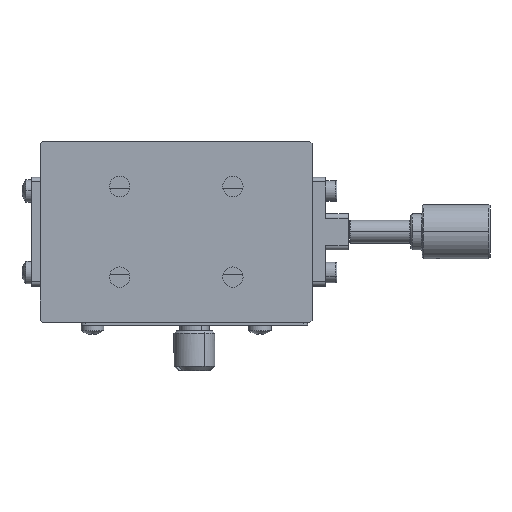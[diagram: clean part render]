
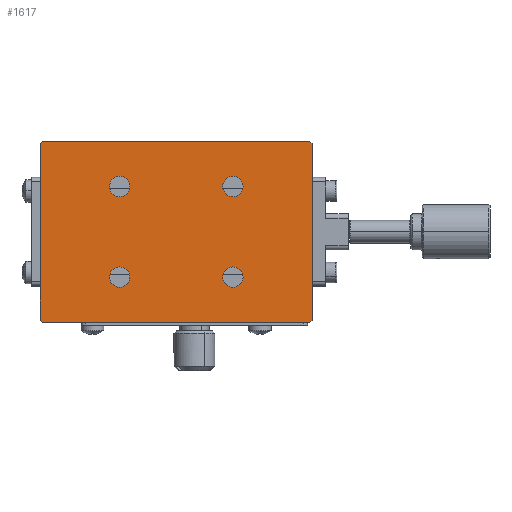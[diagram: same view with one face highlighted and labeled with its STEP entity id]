
A CAD part, front view. The second image highlights one B-rep face of the part: STEP entity #1617.
In plain terms, the highlighted planar face has unit normal (0, -1, 0).
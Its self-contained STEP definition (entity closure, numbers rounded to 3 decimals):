
#868 = VERTEX_POINT ( 'NONE', #29836 ) ;
#1165 = DIRECTION ( 'NONE',  ( 0., 1., 0. ) ) ;
#1332 = CIRCLE ( 'NONE', #17209, 2.25 ) ;
#1401 = VECTOR ( 'NONE', #17075, 1000. ) ;
#1617 = ADVANCED_FACE ( 'NONE', ( #29916, #8924, #9720, #38227, #4801 ), #47043, .T. ) ;
#1726 = EDGE_CURVE ( 'NONE', #10392, #22012, #35682, .T. ) ;
#2042 = DIRECTION ( 'NONE',  ( 0., 0., 1. ) ) ;
#2432 = ORIENTED_EDGE ( 'NONE', *, *, #47905, .T. ) ;
#2440 = CIRCLE ( 'NONE', #7736, 2.25 ) ;
#3204 = EDGE_CURVE ( 'NONE', #17726, #53371, #18297, .T. ) ;
#3485 = EDGE_CURVE ( 'NONE', #12780, #10485, #2440, .T. ) ;
#3561 = CARTESIAN_POINT ( 'NONE',  ( 0., 0., -40. ) ) ;
#3956 = VERTEX_POINT ( 'NONE', #47981 ) ;
#4408 = CARTESIAN_POINT ( 'NONE',  ( 0., 0., 0. ) ) ;
#4801 = FACE_OUTER_BOUND ( 'NONE', #23746, .T. ) ;
#5283 = EDGE_CURVE ( 'NONE', #10392, #31363, #18267, .T. ) ;
#6402 = CIRCLE ( 'NONE', #37312, 2.25 ) ;
#6777 = ORIENTED_EDGE ( 'NONE', *, *, #35390, .T. ) ;
#6780 = AXIS2_PLACEMENT_3D ( 'NONE', #13063, #50929, #46769 ) ;
#7736 = AXIS2_PLACEMENT_3D ( 'NONE', #19311, #48035, #10187 ) ;
#7813 = CARTESIAN_POINT ( 'NONE',  ( 42.5, 0., -30. ) ) ;
#7995 = LINE ( 'NONE', #4408, #19509 ) ;
#8660 = CARTESIAN_POINT ( 'NONE',  ( 42.5, 0., -10. ) ) ;
#8924 = FACE_BOUND ( 'NONE', #50811, .T. ) ;
#8939 = DIRECTION ( 'NONE',  ( 0., 1., 0. ) ) ;
#9029 = EDGE_CURVE ( 'NONE', #53371, #17726, #6402, .T. ) ;
#9287 = CARTESIAN_POINT ( 'NONE',  ( 60., 0., -39.5 ) ) ;
#9393 = ORIENTED_EDGE ( 'NONE', *, *, #47230, .T. ) ;
#9607 = AXIS2_PLACEMENT_3D ( 'NONE', #39879, #10588, #2042 ) ;
#9720 = FACE_BOUND ( 'NONE', #36396, .T. ) ;
#10028 = VERTEX_POINT ( 'NONE', #43348 ) ;
#10043 = CARTESIAN_POINT ( 'NONE',  ( 60., 0., -0.5 ) ) ;
#10187 = DIRECTION ( 'NONE',  ( 0., 0., 1. ) ) ;
#10223 = DIRECTION ( 'NONE',  ( -0.707, 0., 0.707 ) ) ;
#10276 = ORIENTED_EDGE ( 'NONE', *, *, #37611, .T. ) ;
#10383 = ORIENTED_EDGE ( 'NONE', *, *, #47943, .T. ) ;
#10392 = VERTEX_POINT ( 'NONE', #10043 ) ;
#10485 = VERTEX_POINT ( 'NONE', #32963 ) ;
#10588 = DIRECTION ( 'NONE',  ( 0., 1., 0. ) ) ;
#10923 = CARTESIAN_POINT ( 'NONE',  ( 42.5, 0., -10. ) ) ;
#11848 = LINE ( 'NONE', #3561, #30822 ) ;
#11865 = DIRECTION ( 'NONE',  ( 0., 0., 1. ) ) ;
#12081 = CARTESIAN_POINT ( 'NONE',  ( 0.5, 0., -40. ) ) ;
#12134 = ORIENTED_EDGE ( 'NONE', *, *, #5283, .T. ) ;
#12780 = VERTEX_POINT ( 'NONE', #19460 ) ;
#13063 = CARTESIAN_POINT ( 'NONE',  ( 0., 0., 0. ) ) ;
#13747 = ORIENTED_EDGE ( 'NONE', *, *, #1726, .F. ) ;
#14486 = ORIENTED_EDGE ( 'NONE', *, *, #50390, .T. ) ;
#14627 = CARTESIAN_POINT ( 'NONE',  ( 17.5, 0., -32.25 ) ) ;
#14949 = CARTESIAN_POINT ( 'NONE',  ( 17.5, 0., -30. ) ) ;
#15090 = VECTOR ( 'NONE', #10223, 1000. ) ;
#15302 = ORIENTED_EDGE ( 'NONE', *, *, #52310, .T. ) ;
#15423 = AXIS2_PLACEMENT_3D ( 'NONE', #8660, #8939, #51477 ) ;
#15513 = DIRECTION ( 'NONE',  ( 1., 0., 0. ) ) ;
#15577 = AXIS2_PLACEMENT_3D ( 'NONE', #21251, #20977, #11865 ) ;
#16338 = DIRECTION ( 'NONE',  ( 0., 0., 1. ) ) ;
#16653 = DIRECTION ( 'NONE',  ( 0.707, 0., -0.707 ) ) ;
#17075 = DIRECTION ( 'NONE',  ( 0.707, 0., 0.707 ) ) ;
#17205 = CARTESIAN_POINT ( 'NONE',  ( -19.75, 0., -19.75 ) ) ;
#17209 = AXIS2_PLACEMENT_3D ( 'NONE', #7813, #37648, #54500 ) ;
#17324 = DIRECTION ( 'NONE',  ( -0.707, 0., -0.707 ) ) ;
#17726 = VERTEX_POINT ( 'NONE', #25753 ) ;
#18267 = LINE ( 'NONE', #31206, #15090 ) ;
#18297 = CIRCLE ( 'NONE', #50064, 2.25 ) ;
#18451 = CIRCLE ( 'NONE', #9607, 2.25 ) ;
#19117 = DIRECTION ( 'NONE',  ( 0., 0., -1. ) ) ;
#19311 = CARTESIAN_POINT ( 'NONE',  ( 42.5, 0., -30. ) ) ;
#19460 = CARTESIAN_POINT ( 'NONE',  ( 42.5, 0., -32.25 ) ) ;
#19509 = VECTOR ( 'NONE', #21263, 1000. ) ;
#19781 = EDGE_CURVE ( 'NONE', #3956, #34354, #21473, .T. ) ;
#20977 = DIRECTION ( 'NONE',  ( 0., 1., 0. ) ) ;
#21251 = CARTESIAN_POINT ( 'NONE',  ( 17.5, 0., -10. ) ) ;
#21263 = DIRECTION ( 'NONE',  ( 0., 0., 1. ) ) ;
#21473 = LINE ( 'NONE', #46058, #50699 ) ;
#21619 = EDGE_CURVE ( 'NONE', #868, #34354, #7995, .T. ) ;
#22012 = VERTEX_POINT ( 'NONE', #9287 ) ;
#23746 = EDGE_LOOP ( 'NONE', ( #35825, #29807, #32592, #10383, #38196, #15302, #13747, #12134 ) ) ;
#24102 = CARTESIAN_POINT ( 'NONE',  ( 17.5, 0., -30. ) ) ;
#24152 = CARTESIAN_POINT ( 'NONE',  ( 17.5, 0., -12.25 ) ) ;
#24769 = EDGE_CURVE ( 'NONE', #3956, #31363, #53367, .T. ) ;
#25753 = CARTESIAN_POINT ( 'NONE',  ( 17.5, 0., -27.75 ) ) ;
#29807 = ORIENTED_EDGE ( 'NONE', *, *, #19781, .T. ) ;
#29836 = CARTESIAN_POINT ( 'NONE',  ( 0., 0., -39.5 ) ) ;
#29916 = FACE_BOUND ( 'NONE', #45432, .T. ) ;
#30603 = CARTESIAN_POINT ( 'NONE',  ( 42.5, 0., -7.75 ) ) ;
#30822 = VECTOR ( 'NONE', #41685, 1000. ) ;
#31206 = CARTESIAN_POINT ( 'NONE',  ( 29.75, 0., 29.75 ) ) ;
#31363 = VERTEX_POINT ( 'NONE', #49335 ) ;
#31899 = DIRECTION ( 'NONE',  ( 0., 1., 0. ) ) ;
#32592 = ORIENTED_EDGE ( 'NONE', *, *, #21619, .F. ) ;
#32903 = DIRECTION ( 'NONE',  ( 0., 1., 0. ) ) ;
#32960 = VERTEX_POINT ( 'NONE', #51087 ) ;
#32963 = CARTESIAN_POINT ( 'NONE',  ( 42.5, 0., -27.75 ) ) ;
#33074 = VERTEX_POINT ( 'NONE', #48014 ) ;
#33928 = VERTEX_POINT ( 'NONE', #12081 ) ;
#34354 = VERTEX_POINT ( 'NONE', #40196 ) ;
#35390 = EDGE_CURVE ( 'NONE', #53769, #32960, #39667, .T. ) ;
#35525 = EDGE_CURVE ( 'NONE', #10028, #33928, #11848, .T. ) ;
#35682 = LINE ( 'NONE', #36235, #36793 ) ;
#35825 = ORIENTED_EDGE ( 'NONE', *, *, #24769, .F. ) ;
#36235 = CARTESIAN_POINT ( 'NONE',  ( 60., 0., 0. ) ) ;
#36396 = EDGE_LOOP ( 'NONE', ( #2432, #44392 ) ) ;
#36622 = DIRECTION ( 'NONE',  ( 0., 0., 1. ) ) ;
#36793 = VECTOR ( 'NONE', #19117, 1000. ) ;
#36824 = ORIENTED_EDGE ( 'NONE', *, *, #9029, .T. ) ;
#37312 = AXIS2_PLACEMENT_3D ( 'NONE', #14949, #1165, #44515 ) ;
#37611 = EDGE_CURVE ( 'NONE', #33074, #48976, #18451, .T. ) ;
#37648 = DIRECTION ( 'NONE',  ( 0., 1., 0. ) ) ;
#37929 = AXIS2_PLACEMENT_3D ( 'NONE', #10923, #31899, #36622 ) ;
#38196 = ORIENTED_EDGE ( 'NONE', *, *, #35525, .F. ) ;
#38227 = FACE_BOUND ( 'NONE', #54483, .T. ) ;
#38323 = CARTESIAN_POINT ( 'NONE',  ( 49.75, 0., -49.75 ) ) ;
#39043 = VECTOR ( 'NONE', #15513, 1000. ) ;
#39203 = CIRCLE ( 'NONE', #15423, 2.25 ) ;
#39300 = ORIENTED_EDGE ( 'NONE', *, *, #3204, .T. ) ;
#39667 = CIRCLE ( 'NONE', #37929, 2.25 ) ;
#39879 = CARTESIAN_POINT ( 'NONE',  ( 17.5, 0., -10. ) ) ;
#40196 = CARTESIAN_POINT ( 'NONE',  ( 0., 0., -0.5 ) ) ;
#41685 = DIRECTION ( 'NONE',  ( -1., 0., 0. ) ) ;
#43348 = CARTESIAN_POINT ( 'NONE',  ( 59.5, 0., -40. ) ) ;
#44392 = ORIENTED_EDGE ( 'NONE', *, *, #3485, .T. ) ;
#44515 = DIRECTION ( 'NONE',  ( 0., 0., 1. ) ) ;
#45432 = EDGE_LOOP ( 'NONE', ( #10276, #14486 ) ) ;
#45823 = CARTESIAN_POINT ( 'NONE',  ( 0., 0., 0. ) ) ;
#46058 = CARTESIAN_POINT ( 'NONE',  ( 0.25, 0., -0.25 ) ) ;
#46466 = LINE ( 'NONE', #17205, #52461 ) ;
#46769 = DIRECTION ( 'NONE',  ( 0., 0., -1. ) ) ;
#47043 = PLANE ( 'NONE',  #6780 ) ;
#47230 = EDGE_CURVE ( 'NONE', #32960, #53769, #39203, .T. ) ;
#47905 = EDGE_CURVE ( 'NONE', #10485, #12780, #1332, .T. ) ;
#47943 = EDGE_CURVE ( 'NONE', #868, #33928, #46466, .T. ) ;
#47981 = CARTESIAN_POINT ( 'NONE',  ( 0.5, 0., 0. ) ) ;
#48014 = CARTESIAN_POINT ( 'NONE',  ( 17.5, 0., -7.75 ) ) ;
#48035 = DIRECTION ( 'NONE',  ( 0., 1., 0. ) ) ;
#48976 = VERTEX_POINT ( 'NONE', #24152 ) ;
#49335 = CARTESIAN_POINT ( 'NONE',  ( 59.5, 0., 0. ) ) ;
#49985 = CIRCLE ( 'NONE', #15577, 2.25 ) ;
#50064 = AXIS2_PLACEMENT_3D ( 'NONE', #24102, #32903, #16338 ) ;
#50390 = EDGE_CURVE ( 'NONE', #48976, #33074, #49985, .T. ) ;
#50699 = VECTOR ( 'NONE', #17324, 1000. ) ;
#50811 = EDGE_LOOP ( 'NONE', ( #39300, #36824 ) ) ;
#50929 = DIRECTION ( 'NONE',  ( 0., -1., 0. ) ) ;
#51031 = LINE ( 'NONE', #38323, #1401 ) ;
#51087 = CARTESIAN_POINT ( 'NONE',  ( 42.5, 0., -12.25 ) ) ;
#51477 = DIRECTION ( 'NONE',  ( 0., 0., 1. ) ) ;
#52310 = EDGE_CURVE ( 'NONE', #10028, #22012, #51031, .T. ) ;
#52461 = VECTOR ( 'NONE', #16653, 1000. ) ;
#53367 = LINE ( 'NONE', #45823, #39043 ) ;
#53371 = VERTEX_POINT ( 'NONE', #14627 ) ;
#53769 = VERTEX_POINT ( 'NONE', #30603 ) ;
#54483 = EDGE_LOOP ( 'NONE', ( #6777, #9393 ) ) ;
#54500 = DIRECTION ( 'NONE',  ( 0., 0., 1. ) ) ;
